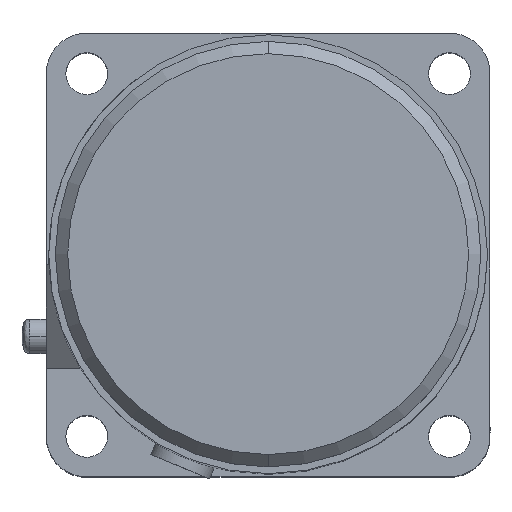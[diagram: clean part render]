
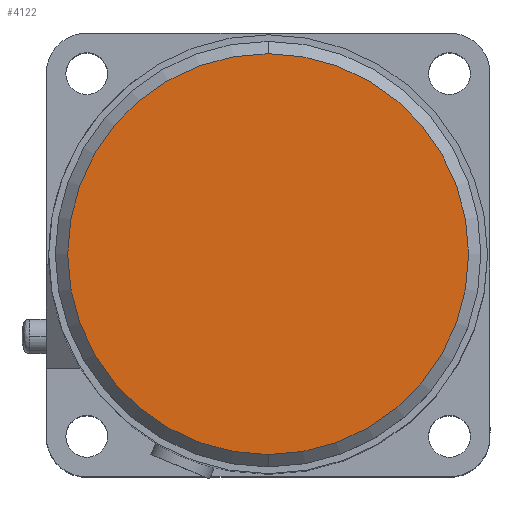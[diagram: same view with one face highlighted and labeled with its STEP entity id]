
A CAD part, top view. The second image highlights one B-rep face of the part: STEP entity #4122.
In plain terms, the highlighted planar face has unit normal (0, 0, 1).
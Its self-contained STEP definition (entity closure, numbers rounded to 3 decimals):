
#104 = EDGE_LOOP ( 'NONE', ( #3744, #4537 ) ) ;
#191 = DIRECTION ( 'NONE',  ( 0., 0., -1. ) ) ;
#400 = PLANE ( 'NONE',  #579 ) ;
#579 = AXIS2_PLACEMENT_3D ( 'NONE', #849, #5479, #5897 ) ;
#762 = FACE_OUTER_BOUND ( 'NONE', #104, .T. ) ;
#849 = CARTESIAN_POINT ( 'NONE',  ( 0., 43.15, 105. ) ) ;
#930 = AXIS2_PLACEMENT_3D ( 'NONE', #5190, #191, #5169 ) ;
#966 = EDGE_CURVE ( 'NONE', #5698, #5414, #3232, .T. ) ;
#1582 = DIRECTION ( 'NONE',  ( 0., 0., -1. ) ) ;
#1986 = DIRECTION ( 'NONE',  ( 0., 1., 0. ) ) ;
#3016 = AXIS2_PLACEMENT_3D ( 'NONE', #4315, #1582, #1986 ) ;
#3232 = CIRCLE ( 'NONE', #3016, 40.65 ) ;
#3744 = ORIENTED_EDGE ( 'NONE', *, *, #5107, .F. ) ;
#3826 = CIRCLE ( 'NONE', #930, 40.65 ) ;
#4122 = ADVANCED_FACE ( 'NONE', ( #762 ), #400, .T. ) ;
#4315 = CARTESIAN_POINT ( 'NONE',  ( 0., 0., 105. ) ) ;
#4537 = ORIENTED_EDGE ( 'NONE', *, *, #966, .F. ) ;
#5107 = EDGE_CURVE ( 'NONE', #5414, #5698, #3826, .T. ) ;
#5169 = DIRECTION ( 'NONE',  ( 0., 1., 0. ) ) ;
#5190 = CARTESIAN_POINT ( 'NONE',  ( 0., 0., 105. ) ) ;
#5303 = CARTESIAN_POINT ( 'NONE',  ( 0., -40.65, 105. ) ) ;
#5414 = VERTEX_POINT ( 'NONE', #5725 ) ;
#5479 = DIRECTION ( 'NONE',  ( 0., 0., 1. ) ) ;
#5698 = VERTEX_POINT ( 'NONE', #5303 ) ;
#5725 = CARTESIAN_POINT ( 'NONE',  ( 0., 40.65, 105. ) ) ;
#5897 = DIRECTION ( 'NONE',  ( 0., -1., 0. ) ) ;
